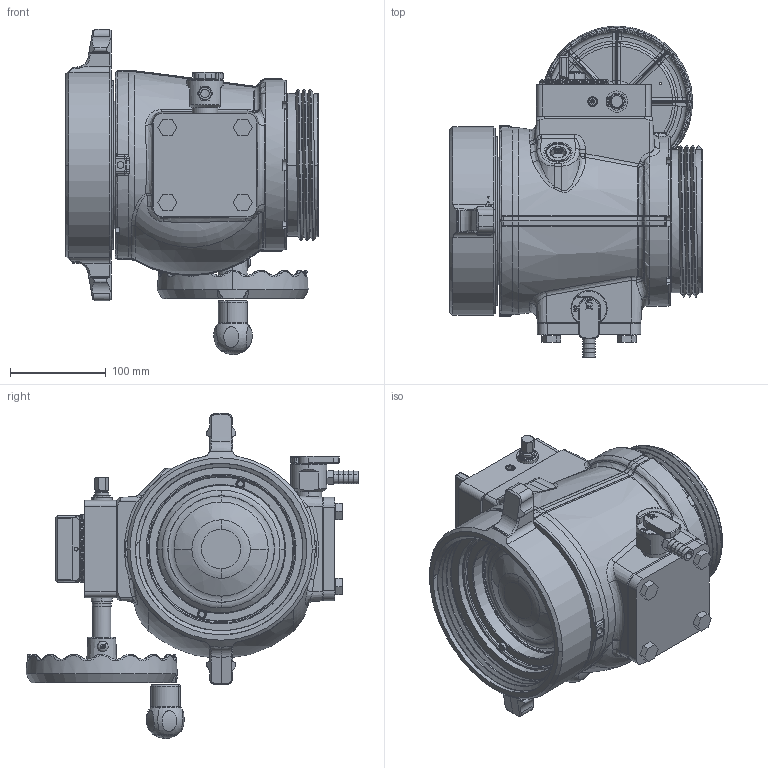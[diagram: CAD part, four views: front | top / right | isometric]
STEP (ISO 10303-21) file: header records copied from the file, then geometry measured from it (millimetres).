
FILE_DESCRIPTION (( 'STEP AP203' ), '1' );
FILE_NAME ('AQ8NT-NX.step', '2014-05-13T19:17:34', ( 'user' ), ( '' ), 'SwSTEP 2.0', 'SolidWorks 2012', '' );
FILE_SCHEMA (( 'CONFIG_CONTROL_DESIGN' ));
Length unit declared in the file: inch
Products named in the file (1): AQ8NT-NX
Bounding box: 263.51 x 346.81 x 339.79 mm (x, y, z)
Surface area: 535447.7 mm2 (no closed solid volume)
Topology: 0 solids, 115 shells, 1757 faces, 8181 edges, 6386 vertices
Faces by surface type: plane 625, bspline 396, cylinder 313, cone 205, torus 190, sphere 28
Entity records: 116213 total; most frequent: CARTESIAN_POINT 56414, ORIENTED_EDGE 11591, DIRECTION 10699, EDGE_CURVE 8153, VERTEX_POINT 6382, VECTOR 4223, LINE 4223, AXIS2_PLACEMENT_3D 3238
